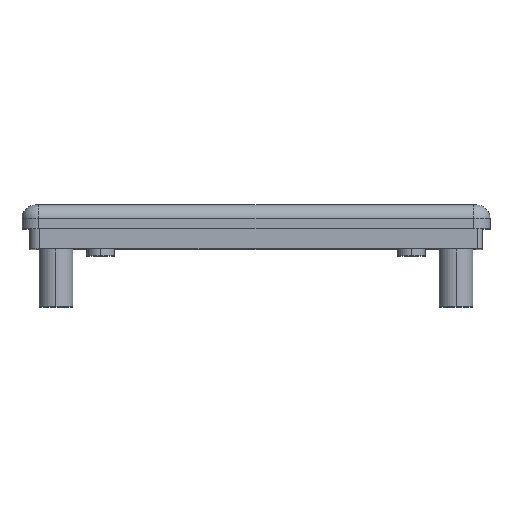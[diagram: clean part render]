
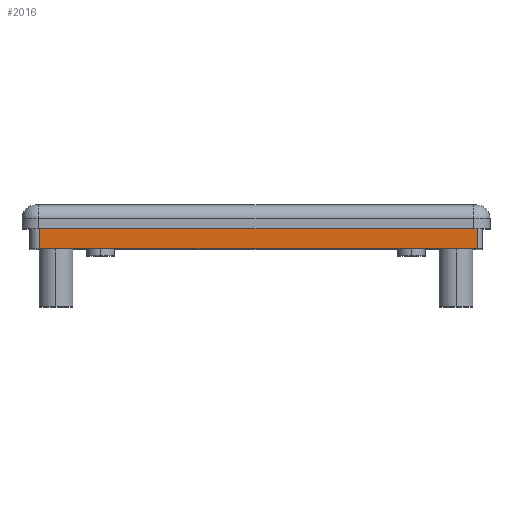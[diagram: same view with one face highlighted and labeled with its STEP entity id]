
A CAD part, top view. The second image highlights one B-rep face of the part: STEP entity #2016.
In plain terms, the highlighted planar face has unit normal (0, 0, 1).
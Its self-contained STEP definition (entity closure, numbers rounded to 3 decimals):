
#70 = VECTOR ( 'NONE', #2921, 1000. ) ;
#80 = ORIENTED_EDGE ( 'NONE', *, *, #2520, .F. ) ;
#108 = CARTESIAN_POINT ( 'NONE',  ( -31.975, 3., 33.475 ) ) ;
#202 = DIRECTION ( 'NONE',  ( -1., 0., 0. ) ) ;
#289 = EDGE_CURVE ( 'NONE', #1526, #472, #791, .T. ) ;
#472 = VERTEX_POINT ( 'NONE', #108 ) ;
#514 = CARTESIAN_POINT ( 'NONE',  ( 32.725, 3., 33.475 ) ) ;
#544 = VERTEX_POINT ( 'NONE', #1678 ) ;
#567 = ORIENTED_EDGE ( 'NONE', *, *, #289, .T. ) ;
#715 = VECTOR ( 'NONE', #202, 1000. ) ;
#791 = LINE ( 'NONE', #514, #715 ) ;
#871 = DIRECTION ( 'NONE',  ( 1., 0., 0. ) ) ;
#881 = EDGE_LOOP ( 'NONE', ( #80, #1251, #567, #2488 ) ) ;
#896 = CARTESIAN_POINT ( 'NONE',  ( 32.725, 3., 33.475 ) ) ;
#1030 = CARTESIAN_POINT ( 'NONE',  ( -31.975, 3., 33.475 ) ) ;
#1251 = ORIENTED_EDGE ( 'NONE', *, *, #1433, .F. ) ;
#1295 = DIRECTION ( 'NONE',  ( 0., -1., 0. ) ) ;
#1353 = VERTEX_POINT ( 'NONE', #1882 ) ;
#1422 = LINE ( 'NONE', #896, #70 ) ;
#1433 = EDGE_CURVE ( 'NONE', #1526, #544, #1422, .T. ) ;
#1526 = VERTEX_POINT ( 'NONE', #1707 ) ;
#1601 = CARTESIAN_POINT ( 'NONE',  ( 32.725, 0., 33.475 ) ) ;
#1614 = CARTESIAN_POINT ( 'NONE',  ( 32.725, 3., 33.475 ) ) ;
#1665 = LINE ( 'NONE', #1601, #3008 ) ;
#1678 = CARTESIAN_POINT ( 'NONE',  ( 32.725, 0., 33.475 ) ) ;
#1707 = CARTESIAN_POINT ( 'NONE',  ( 32.725, 3., 33.475 ) ) ;
#1882 = CARTESIAN_POINT ( 'NONE',  ( -31.975, 0., 33.475 ) ) ;
#1954 = AXIS2_PLACEMENT_3D ( 'NONE', #1614, #2383, #871 ) ;
#2016 = ADVANCED_FACE ( 'NONE', ( #2663 ), #2375, .T. ) ;
#2375 = PLANE ( 'NONE',  #1954 ) ;
#2383 = DIRECTION ( 'NONE',  ( 0., 0., 1. ) ) ;
#2400 = EDGE_CURVE ( 'NONE', #472, #1353, #2817, .T. ) ;
#2488 = ORIENTED_EDGE ( 'NONE', *, *, #2400, .T. ) ;
#2520 = EDGE_CURVE ( 'NONE', #544, #1353, #1665, .T. ) ;
#2663 = FACE_OUTER_BOUND ( 'NONE', #881, .T. ) ;
#2737 = VECTOR ( 'NONE', #1295, 1000. ) ;
#2817 = LINE ( 'NONE', #1030, #2737 ) ;
#2921 = DIRECTION ( 'NONE',  ( 0., -1., 0. ) ) ;
#3008 = VECTOR ( 'NONE', #3118, 1000. ) ;
#3118 = DIRECTION ( 'NONE',  ( -1., 0., 0. ) ) ;
